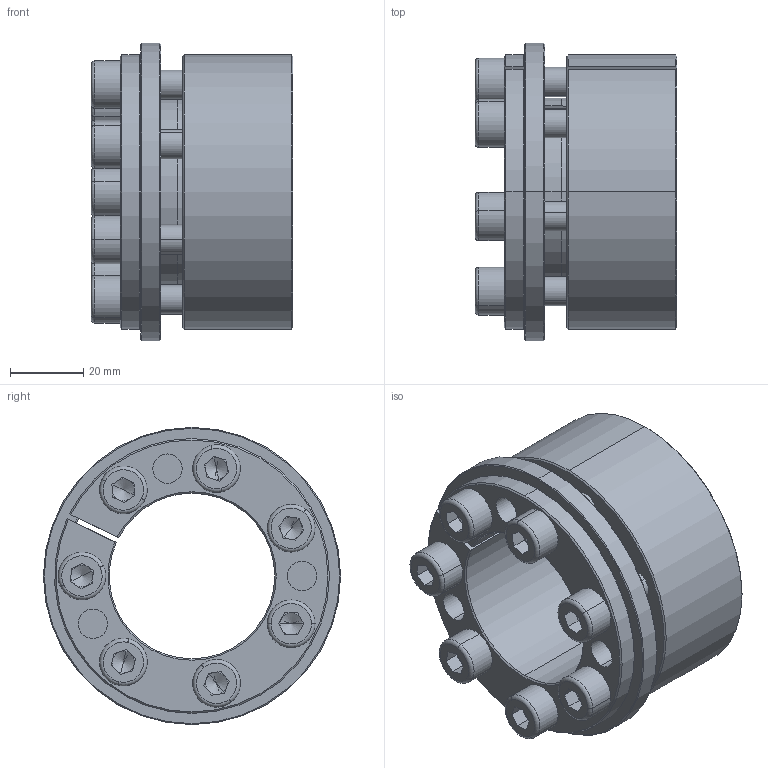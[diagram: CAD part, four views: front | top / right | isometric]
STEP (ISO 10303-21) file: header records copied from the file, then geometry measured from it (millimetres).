
FILE_DESCRIPTION (( 'STEP AP214' ), '1' );
FILE_NAME ('H5×°ÅäÌå45-75.STEP', '2022-07-26T02:20:20', ( '' ), ( '' ), 'SwSTEP 2.0', 'SolidWorks 2022', '' );
FILE_SCHEMA (( 'AUTOMOTIVE_DESIGN' ));
Length unit declared in the file: millimetre
Products named in the file (1): H5蚾饜极45-75
Bounding box: 55 x 81 x 81 mm (x, y, z)
Volume: 120856.1 mm3; surface area: 43263 mm2
Topology: 1 solids, 1 shells, 282 faces, 703 edges, 430 vertices
Faces by surface type: plane 115, cylinder 81, cone 72, torus 14
Entity records: 8428 total; most frequent: DIRECTION 1568, CARTESIAN_POINT 1474, ORIENTED_EDGE 1378, EDGE_CURVE 689, AXIS2_PLACEMENT_3D 620, VERTEX_POINT 430, CIRCLE 337, VECTOR 328
